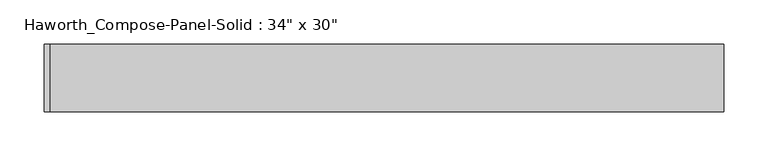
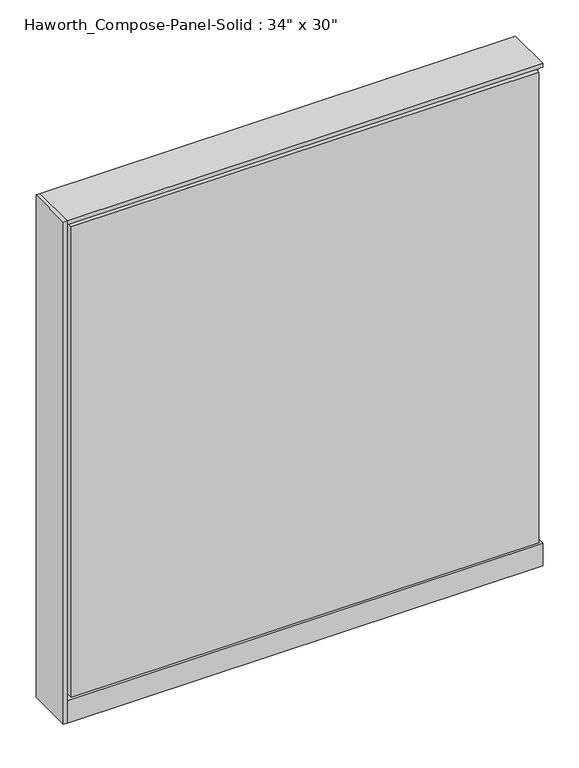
"""IFC4 building model written with IfcOpenShell, lengths in millimetres: furniture geometry."""

from ifc_helpers import new_model, si_unit, point, frame, frame_2d, origin, origin_with_axes, place, context, project, spatial, polyline, circle_curve, trimmed, segment, composite_curve, outline, extrude, source, transform, mapped, element, save


def furniture_6670dba4(model_context):
    return source(origin(), model_context, "Body", "SweptSolid", [
        extrude(outline(composite_curve([segment(trimmed(circle_curve(frame_2d((-302.3597098, 0.0)), 12.7), [point((-315.0597098, 0.0))], [point((-289.6597098, 0.0))], False, "CARTESIAN"), True, "CONTINUOUS"), segment(trimmed(circle_curve(frame_2d((-302.3597098, 0.0)), 12.7), [point((-289.6597098, 0.0))], [point((-315.0597098, 0.0))], False, "CARTESIAN"), True, "CONTINUOUS")], self_intersect=False)), origin_with_axes(), (0.0, 0.0, 1.0), 12.7),
        extrude(outline(composite_curve([segment(trimmed(circle_curve(frame_2d((307.2402902, 0.0)), 12.7), [point((294.5402902, 0.0))], [point((319.9402902, 0.0))], False, "CARTESIAN"), True, "CONTINUOUS"), segment(trimmed(circle_curve(frame_2d((307.2402902, 0.0)), 12.7), [point((319.9402902, 0.0))], [point((294.5402902, 0.0))], False, "CARTESIAN"), True, "CONTINUOUS")], self_intersect=False)), origin_with_axes(), (0.0, 0.0, 1.0), 12.7),
        extrude(outline(polyline([(-384.9097098, 38.1), (-378.5597098, 38.1), (-378.5597098, -38.1), (-384.9097098, -38.1), (-384.9097098, 38.1)])), frame((0.0, 0.0, 12.7), z_axis=(0.0, 0.0, 1.0), x_axis=(1.0, 0.0, 0.0)), (0.0, 0.0, 1.0), 850.9),
        extrude(outline(polyline([(377.0902902, 38.1), (377.0902902, 25.4), (-372.2097098, 25.4), (-372.2097098, 38.1), (377.0902902, 38.1)])), frame((0.0, 0.0, 53.975), z_axis=(0.0, 0.0, 1.0), x_axis=(1.0, 0.0, 0.0)), (0.0, 0.0, 1.0), 796.925),
        extrude(outline(polyline([(377.0902902, -38.1), (-372.2097098, -38.1), (-372.2097098, -25.4), (377.0902902, -25.4), (377.0902902, -38.1)])), frame((0.0, 0.0, 53.975), z_axis=(0.0, 0.0, 1.0), x_axis=(1.0, 0.0, 0.0)), (0.0, 0.0, 1.0), 796.925),
        extrude(outline(polyline([(383.4402902, 25.4), (383.4402902, -25.4), (-378.5597098, -25.4), (-378.5597098, 25.4), (383.4402902, 25.4)])), frame((0.0, 0.0, 12.7), z_axis=(0.0, 0.0, 1.0), x_axis=(1.0, 0.0, 0.0)), (0.0, 0.0, 1.0), 844.55),
        extrude(outline(polyline([(-378.5597098, -38.1), (-378.5597098, 38.1), (383.4402902, 38.1), (383.4402902, -38.1), (-378.5597098, -38.1)])), frame((0.0, 0.0, 12.7), z_axis=(0.0, 0.0, 1.0), x_axis=(1.0, 0.0, 0.0)), (0.0, 0.0, 1.0), 38.1),
        extrude(outline(polyline([(-378.5597098, -38.1), (-378.5597098, 38.1), (383.4402902, 38.1), (383.4402902, -38.1), (-378.5597098, -38.1)])), frame((0.0, 0.0, 857.25), z_axis=(0.0, 0.0, 1.0), x_axis=(1.0, 0.0, 0.0)), (0.0, 0.0, 1.0), 6.35),
    ])


if __name__ == "__main__":
    model = new_model("IFC4")
    model_context = context("Model", 3, world=origin())
    ifc_project = project(units=[si_unit("LENGTHUNIT", "METRE", prefix="MILLI")], contexts=[model_context])
    site = spatial("IfcSite", under=ifc_project)
    building = spatial("IfcBuilding", under=site)
    placement = place(None, origin())
    furniture_shape = furniture_6670dba4(model_context)
    element("IfcFurniture", 1, ObjectType="Haworth_Compose-Panel-Solid : 34\" x 30\"", at=placement, inside=building, context=model_context, shape_type="MappedRepresentation", body=[
        mapped(furniture_shape, transform((0.0, 0.0, 0.0), x_axis=(1.0, 0.0, 0.0), y_axis=(0.0, 1.0, 0.0), z_axis=(0.0, 0.0, 1.0))),
    ])
    save(model, "model.ifc")
